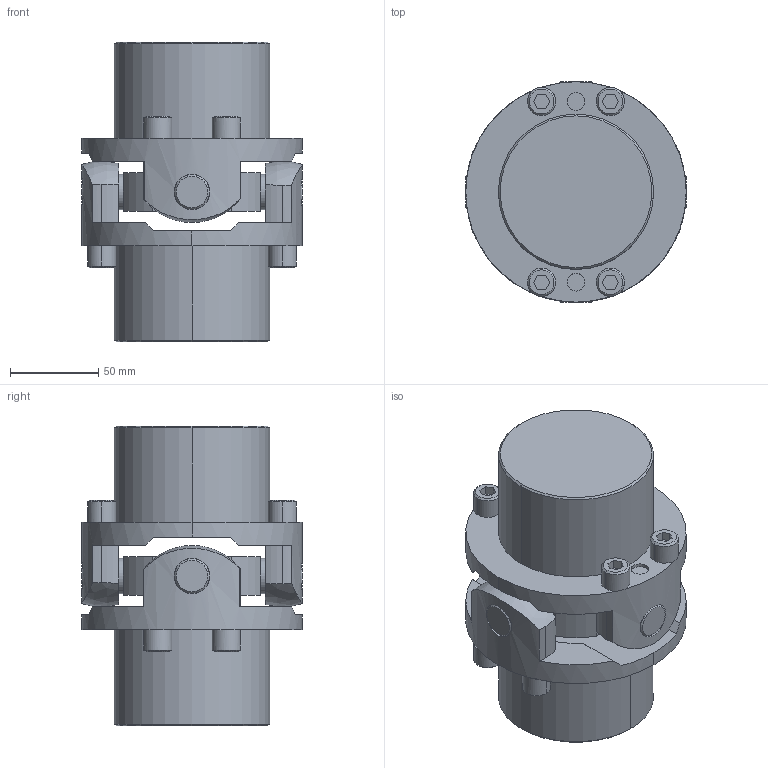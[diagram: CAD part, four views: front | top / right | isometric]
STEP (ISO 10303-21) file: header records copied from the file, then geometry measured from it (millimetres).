
FILE_DESCRIPTION((''),'2;1');
FILE_NAME('UCR-125.stp','2013-05-13T10:01:11',(''),(''),'AutoCAD STEP 2000i','AutoCAD 2000i',', , ');
FILE_SCHEMA(('CONFIG_CONTROL_DESIGN'));
Length unit declared in the file: millimetre
Products named in the file (8): UCR-125; 忣兜1; UCR-12502; UCN125-B042; UCNF-12502; UCN125-B032-1; UCN125-B032; UCN125-SEN
Assembly tree (7 placements, depth 2):
  UCR-125
    忣兜1
    UCR-12502
    UCN125-B042
    UCNF-12502
    UCN125-B032-1
    UCN125-B032
    UCN125-SEN
Bounding box: 125 x 125 x 170 mm (x, y, z)
Volume: 1121042.3 mm3; surface area: 126163.7 mm2
Topology: 1 solids, 1 shells, 218 faces, 553 edges, 366 vertices
Faces by surface type: plane 112, cylinder 74, cone 28, sphere 4
Entity records: 7264 total; most frequent: CARTESIAN_POINT 1654, DIRECTION 1209, ORIENTED_EDGE 1092, EDGE_CURVE 546, AXIS2_PLACEMENT_3D 458, VERTEX_POINT 352, VECTOR 293, LINE 293
